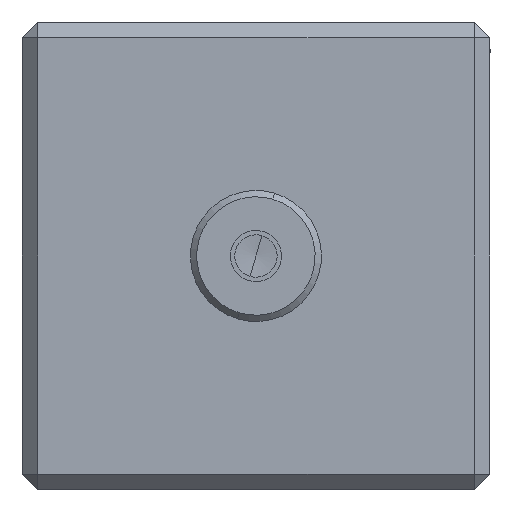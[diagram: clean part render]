
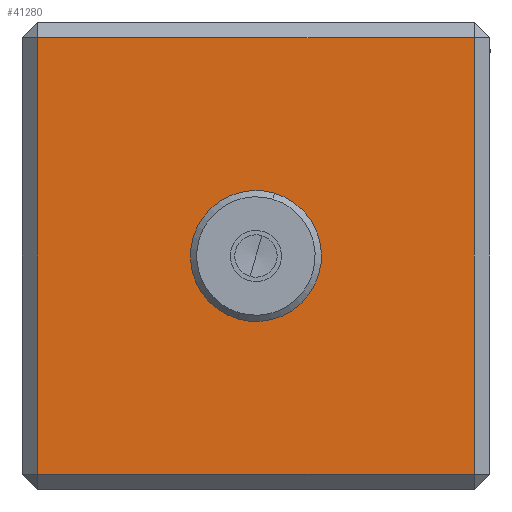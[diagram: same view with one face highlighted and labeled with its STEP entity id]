
A CAD part, front view. The second image highlights one B-rep face of the part: STEP entity #41280.
In plain terms, the highlighted planar face has unit normal (0, -1, 0).
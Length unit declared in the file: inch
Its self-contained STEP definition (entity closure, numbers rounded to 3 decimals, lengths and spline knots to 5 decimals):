
#3677 = VECTOR ( 'NONE', #23596, 39.37008 ) ;
#5863 = AXIS2_PLACEMENT_3D ( 'NONE', #13858, #13859, #13860 ) ;
#7448 = CIRCLE ( 'NONE', #7449, 0.10827 ) ;
#7449 = AXIS2_PLACEMENT_3D ( 'NONE', #31007, #30986, #30995 ) ;
#7636 = LINE ( 'NONE', #35863, #32011 ) ;
#10065 = FACE_BOUND ( 'NONE', #18054, .T. ) ;
#10069 = FACE_OUTER_BOUND ( 'NONE', #17960, .T. ) ;
#13857 = PLANE ( 'NONE',  #5863 ) ;
#13858 = CARTESIAN_POINT ( 'NONE',  ( 1.25, -0.75, 1.25 ) ) ;
#13859 = DIRECTION ( 'NONE',  ( 0., 1., 0. ) ) ;
#13860 = DIRECTION ( 'NONE',  ( 1., 0., 0. ) ) ;
#16178 = VECTOR ( 'NONE', #33506, 39.37008 ) ;
#17427 = EDGE_CURVE ( 'NONE', #49076, #49075, #7448, .T. ) ;
#17960 = EDGE_LOOP ( 'NONE', ( #44735, #45037, #44862, #45107 ) ) ;
#18054 = EDGE_LOOP ( 'NONE', ( #44731, #45035 ) ) ;
#20603 = LINE ( 'NONE', #23594, #3677 ) ;
#21835 = CARTESIAN_POINT ( 'NONE',  ( -0.2, -0.75, 1.2 ) ) ;
#21837 = CARTESIAN_POINT ( 'NONE',  ( 1.2, -0.75, 1.2 ) ) ;
#21838 = CARTESIAN_POINT ( 'NONE',  ( 1.2, -0.75, -0.2 ) ) ;
#21839 = CARTESIAN_POINT ( 'NONE',  ( -0.2, -0.75, -0.2 ) ) ;
#21910 = CARTESIAN_POINT ( 'NONE',  ( 0.39173, -0.75, 0.5 ) ) ;
#21911 = CARTESIAN_POINT ( 'NONE',  ( 0.60827, -0.75, 0.5 ) ) ;
#23594 = CARTESIAN_POINT ( 'NONE',  ( 1.25, -0.75, 1.2 ) ) ;
#23596 = DIRECTION ( 'NONE',  ( -1., 0., 0. ) ) ;
#24811 = EDGE_CURVE ( 'NONE', #48984, #48982, #20603, .T. ) ;
#24970 = EDGE_CURVE ( 'NONE', #49075, #49076, #31896, .T. ) ;
#24986 = EDGE_CURVE ( 'NONE', #48986, #48984, #7636, .T. ) ;
#25214 = EDGE_CURVE ( 'NONE', #48982, #48988, #32501, .T. ) ;
#25242 = EDGE_CURVE ( 'NONE', #48988, #48986, #32583, .T. ) ;
#30986 = DIRECTION ( 'NONE',  ( 0., -1., 0. ) ) ;
#30995 = DIRECTION ( 'NONE',  ( -1., 0., 0. ) ) ;
#31007 = CARTESIAN_POINT ( 'NONE',  ( 0.5, -0.75, 0.5 ) ) ;
#31896 = CIRCLE ( 'NONE', #31946, 0.10827 ) ;
#31946 = AXIS2_PLACEMENT_3D ( 'NONE', #35526, #35527, #35528 ) ;
#32011 = VECTOR ( 'NONE', #35864, 39.37008 ) ;
#32501 = LINE ( 'NONE', #33505, #16178 ) ;
#32583 = LINE ( 'NONE', #36509, #44088 ) ;
#33505 = CARTESIAN_POINT ( 'NONE',  ( -0.2, -0.75, 1.25 ) ) ;
#33506 = DIRECTION ( 'NONE',  ( 0., 0., -1. ) ) ;
#35526 = CARTESIAN_POINT ( 'NONE',  ( 0.5, -0.75, 0.5 ) ) ;
#35527 = DIRECTION ( 'NONE',  ( 0., -1., 0. ) ) ;
#35528 = DIRECTION ( 'NONE',  ( -1., 0., 0. ) ) ;
#35863 = CARTESIAN_POINT ( 'NONE',  ( 1.2, -0.75, 1.25 ) ) ;
#35864 = DIRECTION ( 'NONE',  ( 0., 0., 1. ) ) ;
#36509 = CARTESIAN_POINT ( 'NONE',  ( 1.25, -0.75, -0.2 ) ) ;
#36510 = DIRECTION ( 'NONE',  ( 1., 0., 0. ) ) ;
#41280 = ADVANCED_FACE ( 'NONE', ( #10065, #10069 ), #13857, .F. ) ;
#44088 = VECTOR ( 'NONE', #36510, 39.37008 ) ;
#44731 = ORIENTED_EDGE ( 'NONE', *, *, #24970, .F. ) ;
#44735 = ORIENTED_EDGE ( 'NONE', *, *, #25242, .T. ) ;
#44862 = ORIENTED_EDGE ( 'NONE', *, *, #24811, .T. ) ;
#45035 = ORIENTED_EDGE ( 'NONE', *, *, #17427, .F. ) ;
#45037 = ORIENTED_EDGE ( 'NONE', *, *, #24986, .T. ) ;
#45107 = ORIENTED_EDGE ( 'NONE', *, *, #25214, .T. ) ;
#48982 = VERTEX_POINT ( 'NONE', #21835 ) ;
#48984 = VERTEX_POINT ( 'NONE', #21837 ) ;
#48986 = VERTEX_POINT ( 'NONE', #21838 ) ;
#48988 = VERTEX_POINT ( 'NONE', #21839 ) ;
#49075 = VERTEX_POINT ( 'NONE', #21910 ) ;
#49076 = VERTEX_POINT ( 'NONE', #21911 ) ;
